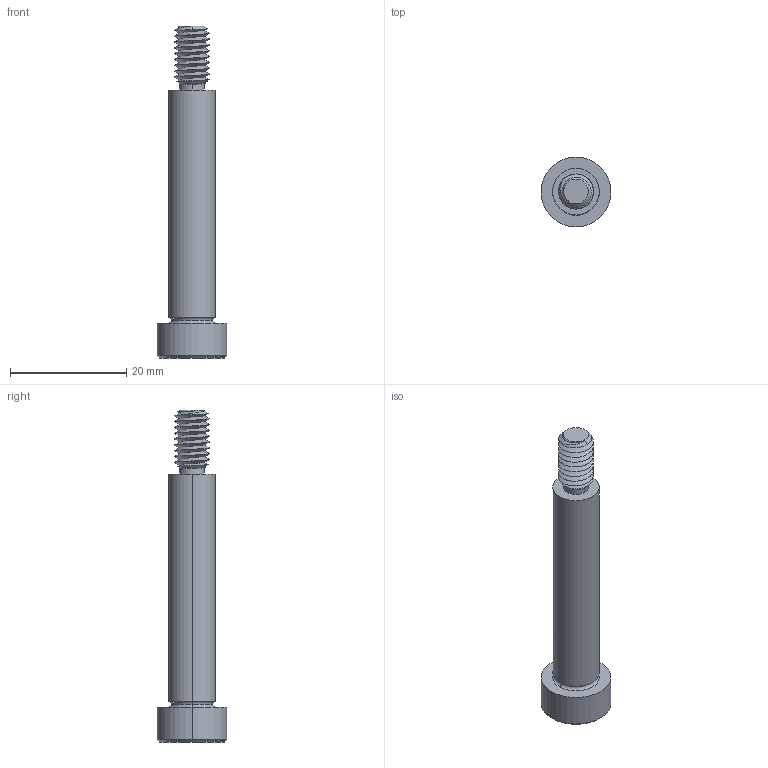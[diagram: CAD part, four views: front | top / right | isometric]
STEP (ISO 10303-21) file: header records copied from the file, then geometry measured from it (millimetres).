
FILE_DESCRIPTION (( 'STEP AP203' ), '1' );
FILE_NAME ('P0130.080-040-B2.step', '2021-11-09T21:40:49', ( '' ), ( '' ), 'SwSTEP 2.0', 'SolidWorks 2019', '' );
FILE_SCHEMA (( 'CONFIG_CONTROL_DESIGN' ));
Length unit declared in the file: millimetre
Products named in the file (1): P0130.080-040-B2
Bounding box: 12 x 12 x 57 mm (x, y, z)
Volume: 2840 mm3; surface area: 1838.2 mm2
Topology: 1 solids, 1 shells, 60 faces, 142 edges, 85 vertices
Faces by surface type: cylinder 24, plane 16, cone 14, torus 4, bspline 2
Entity records: 4245 total; most frequent: CARTESIAN_POINT 2899, ORIENTED_EDGE 280, DIRECTION 247, EDGE_CURVE 140, AXIS2_PLACEMENT_3D 99, VERTEX_POINT 85, EDGE_LOOP 63, FACE_OUTER_BOUND 60
